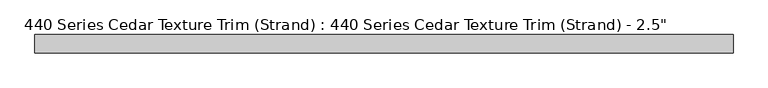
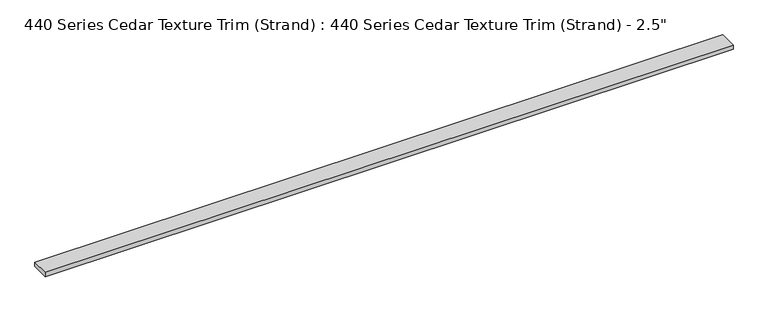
"""IFC4 building model written with IfcOpenShell, lengths in millimetres: proxy geometry."""

from ifc_helpers import new_model, si_unit, origin, origin_with_axes, place, context, project, spatial, polyline, outline, extrude, source, transform, mapped, element, save


def proxy_487fd02a(model_context):
    return source(origin(), model_context, "Body", "SweptSolid", [
        extrude(outline(polyline([(2438.4, 0.0), (0.0, 0.0), (0.0, 63.5), (2438.4, 63.5), (2438.4, 0.0)])), origin_with_axes(), (0.0, 0.0, 1.0), 15.875),
    ])


if __name__ == "__main__":
    model = new_model("IFC4")
    model_context = context("Model", 3, world=origin())
    ifc_project = project(units=[si_unit("LENGTHUNIT", "METRE", prefix="MILLI")], contexts=[model_context])
    site = spatial("IfcSite", under=ifc_project)
    building = spatial("IfcBuilding", under=site)
    placement = place(None, origin())
    proxy_shape = proxy_487fd02a(model_context)
    element("IfcBuildingElementProxy", 1, Name="440 Series Cedar Texture Trim (Strand) : 440 Series Cedar Texture Trim (Strand) - 2.5\"", ObjectType="440 Series Cedar Texture Trim (Strand) : 440 Series Cedar Texture Trim (Strand) - 2.5\"", at=placement, inside=building, context=model_context, shape_type="MappedRepresentation", body=[
        mapped(proxy_shape, transform((0.0, 0.0, 0.0), x_axis=(1.0, 0.0, 0.0), y_axis=(0.0, 1.0, 0.0), z_axis=(0.0, 0.0, 1.0))),
    ])
    save(model, "model.ifc")
